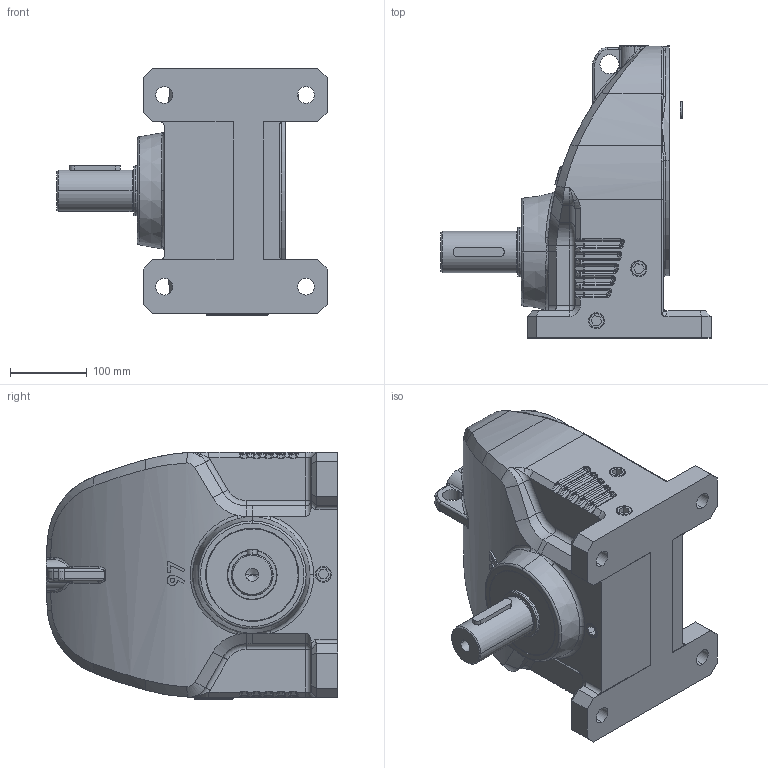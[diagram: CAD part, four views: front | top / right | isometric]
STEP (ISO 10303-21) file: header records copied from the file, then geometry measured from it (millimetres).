
FILE_DESCRIPTION (( 'STEP AP203' ), '1' );
FILE_NAME ('RX097HF-284TC.STEP', '2015-03-16T05:52:34', ( 'user' ), ( '' ), 'SwSTEP 2.0', 'SolidWorks 2012', '' );
FILE_SCHEMA (( 'CONFIG_CONTROL_DESIGN' ));
Length unit declared in the file: millimetre
Products named in the file (29): JCHX097; KEGX097; PBA6311_SKF - 6311 - 10,DE,NC,10_68; PCB120; PCA055_JIS B 2804 Shaft use 55; PJB04; PKD1409027S; PSS065120151; JHGA09725; KNGH284T32; KFGG284T; PTAA16050; PSS080105131; PKD0807025; PCA032; P125; PTBA12040; PWS12; PBA6216; 097法蘭入力組合284T_32; JKGB10799L_JKGB10799L; PBA6310_SKF - 6310 - 10,DE,NC,10_68; PBA6215; PCA050; PKD1_2067; JSPC050060005A; RX097HF-284TC
Assembly tree (19 placements, depth 3):
  JHGA09725
  KNGH284T32
  KFGG284T
  PTAA16050
  PSS080105131
Bounding box: 352.5 x 381 x 323 mm (x, y, z)
Volume: 5758533.2 mm3; surface area: 1084118.2 mm2
Topology: 18 solids, 18 shells, 1334 faces, 3473 edges, 2112 vertices
Faces by surface type: cylinder 445, plane 302, bspline 223, torus 214, cone 102, sphere 48
Entity records: 53600 total; most frequent: CARTESIAN_POINT 21894, ORIENTED_EDGE 6438, DIRECTION 5788, EDGE_CURVE 3219, AXIS2_PLACEMENT_3D 2399, VERTEX_POINT 1976, EDGE_LOOP 1355, CIRCLE 1337
